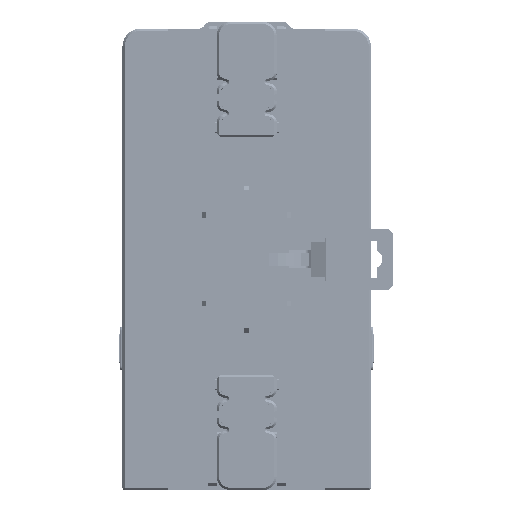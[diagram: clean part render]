
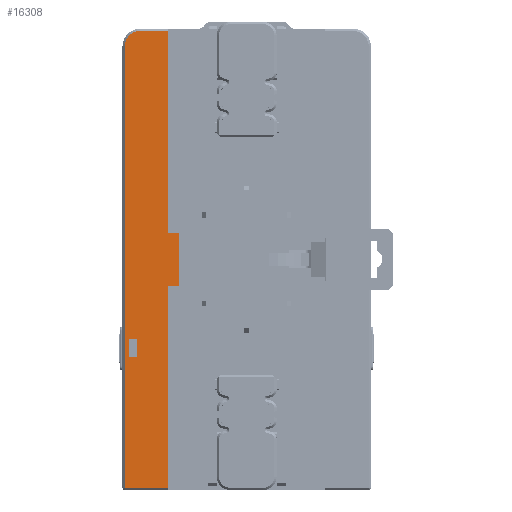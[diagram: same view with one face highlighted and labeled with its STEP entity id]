
A CAD part, front view. The second image highlights one B-rep face of the part: STEP entity #16308.
In plain terms, the highlighted planar face has unit normal (0, -1, 0).
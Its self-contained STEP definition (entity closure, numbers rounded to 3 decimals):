
#16308=ADVANCED_FACE('',(#35995,#35996),#26879,.T.);
#26879=PLANE('',#216082);
#35995=FACE_BOUND('',#39644,.T.);
#35996=FACE_BOUND('',#39645,.T.);
#39644=EDGE_LOOP('',(#66003,#66004,#66005,#66006,#66007,#66008,#66009,#66010,
#66011));
#39645=EDGE_LOOP('',(#66012,#66013,#66014,#66015));
#51333=CIRCLE('',#216081,3.5);
#66003=ORIENTED_EDGE('',*,*,#140486,.T.);
#66004=ORIENTED_EDGE('',*,*,#140487,.T.);
#66005=ORIENTED_EDGE('',*,*,#140488,.F.);
#66006=ORIENTED_EDGE('',*,*,#140489,.F.);
#66007=ORIENTED_EDGE('',*,*,#140490,.F.);
#66008=ORIENTED_EDGE('',*,*,#140491,.F.);
#66009=ORIENTED_EDGE('',*,*,#140492,.F.);
#66010=ORIENTED_EDGE('',*,*,#140493,.T.);
#66011=ORIENTED_EDGE('',*,*,#140494,.T.);
#66012=ORIENTED_EDGE('',*,*,#140326,.T.);
#66013=ORIENTED_EDGE('',*,*,#140485,.T.);
#66014=ORIENTED_EDGE('',*,*,#140495,.F.);
#66015=ORIENTED_EDGE('',*,*,#140496,.F.);
#118683=VERTEX_POINT('',#305838);
#118686=VERTEX_POINT('',#305843);
#118773=VERTEX_POINT('',#306155);
#118774=VERTEX_POINT('',#306159);
#118775=VERTEX_POINT('',#306160);
#118776=VERTEX_POINT('',#306162);
#118777=VERTEX_POINT('',#306164);
#118778=VERTEX_POINT('',#306166);
#118779=VERTEX_POINT('',#306168);
#118780=VERTEX_POINT('',#306170);
#118781=VERTEX_POINT('',#306172);
#118782=VERTEX_POINT('',#306174);
#118783=VERTEX_POINT('',#306177);
#140326=EDGE_CURVE('',#118683,#118686,#168365,.T.);
#140485=EDGE_CURVE('',#118686,#118773,#168508,.T.);
#140486=EDGE_CURVE('',#118774,#118775,#168509,.T.);
#140487=EDGE_CURVE('',#118775,#118776,#168510,.T.);
#140488=EDGE_CURVE('',#118777,#118776,#168511,.T.);
#140489=EDGE_CURVE('',#118778,#118777,#168512,.T.);
#140490=EDGE_CURVE('',#118779,#118778,#168513,.T.);
#140491=EDGE_CURVE('',#118780,#118779,#168514,.T.);
#140492=EDGE_CURVE('',#118781,#118780,#168515,.T.);
#140493=EDGE_CURVE('',#118781,#118782,#168516,.T.);
#140494=EDGE_CURVE('',#118782,#118774,#51333,.T.);
#140495=EDGE_CURVE('',#118783,#118773,#168517,.T.);
#140496=EDGE_CURVE('',#118683,#118783,#168518,.T.);
#168365=LINE('',#305844,#192393);
#168508=LINE('',#306156,#192536);
#168509=LINE('',#306158,#192537);
#168510=LINE('',#306161,#192538);
#168511=LINE('',#306163,#192539);
#168512=LINE('',#306165,#192540);
#168513=LINE('',#306167,#192541);
#168514=LINE('',#306169,#192542);
#168515=LINE('',#306171,#192543);
#168516=LINE('',#306173,#192544);
#168517=LINE('',#306176,#192545);
#168518=LINE('',#306178,#192546);
#192393=VECTOR('',#238243,1.);
#192536=VECTOR('',#238550,1.);
#192537=VECTOR('',#238553,1.);
#192538=VECTOR('',#238554,1.);
#192539=VECTOR('',#238555,1.);
#192540=VECTOR('',#238556,1.);
#192541=VECTOR('',#238557,1.);
#192542=VECTOR('',#238558,1.);
#192543=VECTOR('',#238559,1.);
#192544=VECTOR('',#238560,1.);
#192545=VECTOR('',#238563,1.);
#192546=VECTOR('',#238564,1.);
#216081=AXIS2_PLACEMENT_3D('',#306175,#238561,#238562);
#216082=AXIS2_PLACEMENT_3D('',#306179,#238565,#238566);
#238243=DIRECTION('',(0.,0.,1.));
#238550=DIRECTION('',(1.,0.,0.));
#238553=DIRECTION('',(0.,0.,-1.));
#238554=DIRECTION('',(1.,0.,0.));
#238555=DIRECTION('',(0.,0.,-1.));
#238556=DIRECTION('',(-1.,0.,0.));
#238557=DIRECTION('',(0.,0.,-1.));
#238558=DIRECTION('',(1.,0.,0.));
#238559=DIRECTION('',(0.,0.,-1.));
#238560=DIRECTION('',(-1.,0.,0.));
#238561=DIRECTION('',(0.,-1.,0.));
#238562=DIRECTION('',(0.,0.,-1.));
#238563=DIRECTION('',(0.,0.,1.));
#238564=DIRECTION('',(1.,0.,0.));
#238565=DIRECTION('',(0.,-1.,0.));
#238566=DIRECTION('',(-1.,0.,0.));
#305838=CARTESIAN_POINT('',(-131.11,148.342,374.066));
#305843=CARTESIAN_POINT('',(-131.11,148.342,378.066));
#305844=CARTESIAN_POINT('',(-131.11,148.342,426.638));
#306155=CARTESIAN_POINT('',(-129.41,148.342,378.066));
#306156=CARTESIAN_POINT('',(-122.338,148.342,378.066));
#306158=CARTESIAN_POINT('',(-132.088,148.342,426.638));
#306159=CARTESIAN_POINT('',(-132.088,148.342,444.138));
#306160=CARTESIAN_POINT('',(-132.088,148.342,344.638));
#306161=CARTESIAN_POINT('',(-122.338,148.342,344.638));
#306162=CARTESIAN_POINT('',(-122.338,148.342,344.638));
#306163=CARTESIAN_POINT('',(-122.338,148.342,357.138));
#306164=CARTESIAN_POINT('',(-122.338,148.342,390.138));
#306165=CARTESIAN_POINT('',(-134.719,148.342,390.138));
#306166=CARTESIAN_POINT('',(-119.88,148.342,390.138));
#306167=CARTESIAN_POINT('',(-119.88,148.342,417.64));
#306168=CARTESIAN_POINT('',(-119.88,148.342,402.138));
#306169=CARTESIAN_POINT('',(-134.719,148.342,402.138));
#306170=CARTESIAN_POINT('',(-122.338,148.342,402.138));
#306171=CARTESIAN_POINT('',(-122.338,148.342,437.388));
#306172=CARTESIAN_POINT('',(-122.338,148.342,447.638));
#306173=CARTESIAN_POINT('',(-122.338,148.342,447.638));
#306174=CARTESIAN_POINT('',(-128.588,148.342,447.638));
#306175=CARTESIAN_POINT('',(-128.588,148.342,444.138));
#306176=CARTESIAN_POINT('',(-129.41,148.342,426.638));
#306177=CARTESIAN_POINT('',(-129.41,148.342,374.066));
#306178=CARTESIAN_POINT('',(-122.338,148.342,374.066));
#306179=CARTESIAN_POINT('',(-122.338,148.342,426.638));
